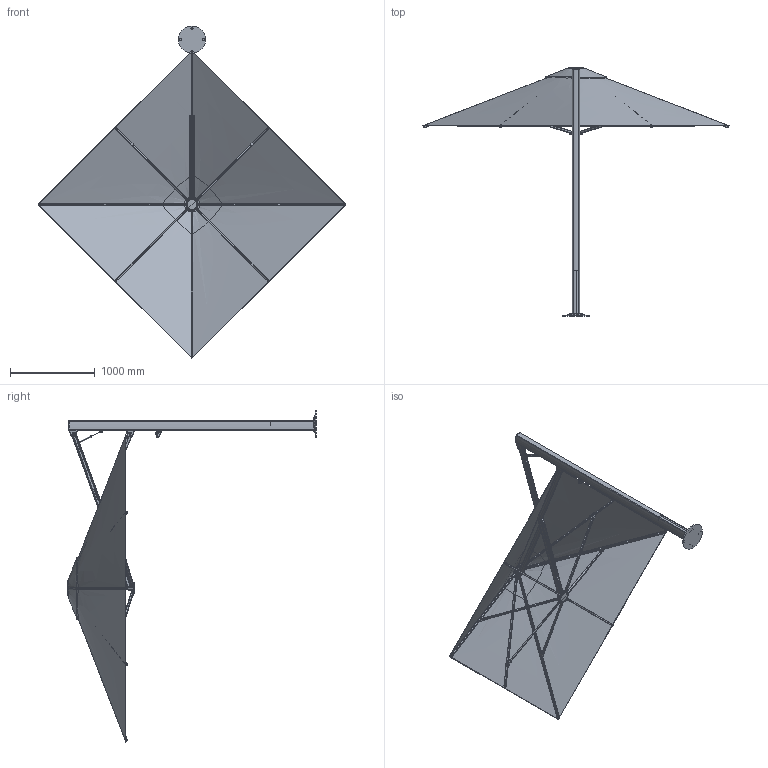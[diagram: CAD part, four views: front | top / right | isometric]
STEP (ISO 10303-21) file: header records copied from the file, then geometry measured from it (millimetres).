
FILE_DESCRIPTION (( 'STEP AP203' ), '1' );
FILE_NAME ('Serenity 2.5M Square.STEP', '2020-06-18T05:11:52', ( '' ), ( '' ), 'SwSTEP 2.0', 'SolidWorks 2017', '' );
FILE_SCHEMA (( 'CONFIG_CONTROL_DESIGN' ));
Length unit declared in the file: millimetre
Products named in the file (48): SMP_UM - 110222; SMP_UM - 110063; SMP_UM - 110059; SMP_UM - 110083; SMP_UM - 210023; SMP_UM - 110085; SMP_UM - 110066; SMP_UM - 110167; SMP_UM - 110060; SMP_UM - 110166; SMP_UM - 110080; SMP_UM - 110182; SMP_UM - 110092; Serenity 2.5M Square; SMP_UM - 110067_Default<As Machined>; SMP_UM - 110184; SMP_UM - 110093; SMP_UM - 110206; SMP_UM - 210036; SMP_UM - 110114; SMP_UM - 110102_Stretched; socket button head cap screw_am_B18.3.4M - 5 x 0.8 x 16 SBHCS --N; SMP_UM - 110088; SMP_UM - 110096_PD; SMP_UM - 110084; SMP_UM - 110094; SMP_UM - 110207; SMP_UM - 110070; SMP_UM - 110168; SMP_UM - 110078_All Holes; SMP_UM - 110183; SMP_UM - 110065; SMP_UM - 210043 - Gastec Spring_Extended; SMP_UM - 110064; SMP_UM - 110098; SMP_UM - 110131; SMP_UM - 110079; SMP_UM - 110083b; SMP_UM - 110110; SMP_UM - 110081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
Assembly tree (67 placements, depth 3):
  Serenity 2.5M Square
    SMP_UM - 110210
      SMP_UM - 110078_All Holes
      SMP_UM - 110076_PD
    SMP_UM - 110068_revised
    SMP_UM - 110114
      SMP_UM - 110067_Default<As Machined>
    SMP_UM - 110059
      SMP_UM - 110081
      SMP_UM - 110080  x2
    SMP_UM - 110060
      SMP_UM - 110083
      SMP_UM - 110084
      SMP_UM - 210023
      socket button head cap screw_am_B18.3.4M - 5 x 0.8 x 16 SBHCS --N
      SMP_UM - 210036
      SMP_UM - 110085  x2
      SMP_UM - 110083b
    SMP_UM - 110064
      SMP_UM - 110092
    SMP_UM - 110063
      SMP_UM - 110092
      SMP_UM - 110093
      SMP_UM - 110094
      SMP_UM - 110110
    SMP_UM - 110166  x3
      SMP_UM - 110182
      SMP_UM - 110089
      SMP_UM - 110088
      SMP_UM - 110131
    SMP_UM - 110206  x3
      SMP_UM - 110183
      SMP_UM - 110089
    SMP_UM - 110066
      SMP_UM - 110098
      SMP_UM - 110075
      SMP_UM - 110096_PD
      SMP_UM - 110102_Stretched
    SMP_UM - 210043 - Gastec Spring_Extended
    SMP_UM - 110207  x4
      SMP_UM - 110184
      SMP_UM - 110088
      SMP_UM - 110131
    SMP_UM - 110167  x4
      SMP_UM - 110185
      SMP_UM - 110089
    SMP_UM - 110168
      SMP_UM - 110075
      SMP_UM - 110079
    SMP_UM - 110065
      SMP_UM - 110070
      SMP_UM - 110069
    SMP_UM - 010264 - 2.5M Fabric Canopy
    SMP_UM - 110222
Bounding box: 3622 x 2930.5 x 3911.84 mm (x, y, z)
Volume: 56214146.4 mm3; surface area: 19931227.5 mm2
Topology: 78 solids, 80 shells, 1591 faces, 3906 edges, 2471 vertices
Faces by surface type: cylinder 553, plane 433, bspline 299, cone 232, torus 68, sphere 6
Entity records: 61079 total; most frequent: CARTESIAN_POINT 33883, ORIENTED_EDGE 4840, DIRECTION 4108, EDGE_CURVE 2420, AXIS2_PLACEMENT_3D 1672, VERTEX_POINT 1500, EDGE_LOOP 1036, FACE_OUTER_BOUND 1002
